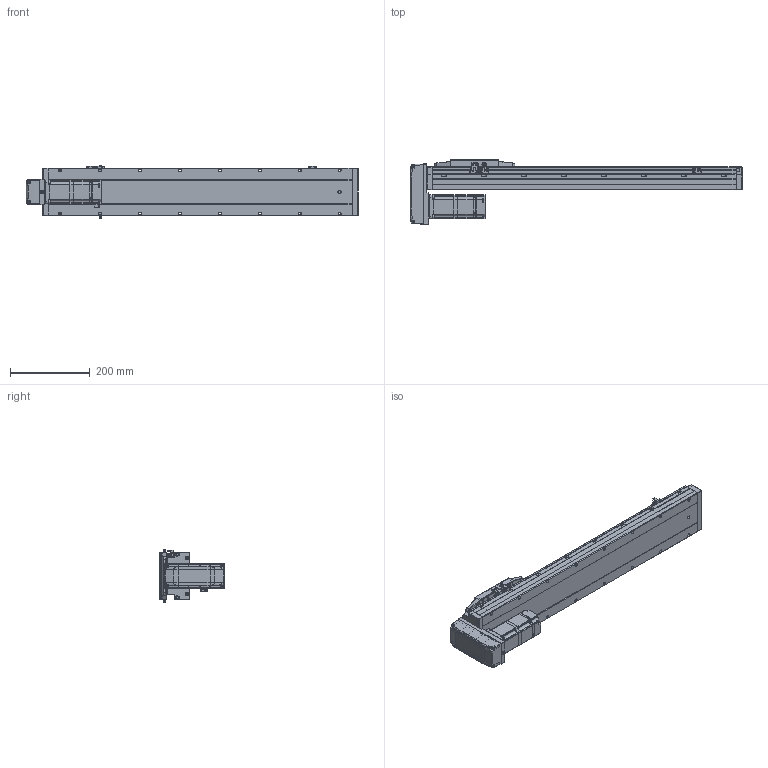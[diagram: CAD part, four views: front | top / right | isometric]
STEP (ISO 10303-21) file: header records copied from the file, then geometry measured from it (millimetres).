
FILE_DESCRIPTION (( 'STEP AP214' ), '1' );
FILE_NAME ('CTH12-L10-S550-BM-C40（简）.STEP', '2023-02-04T06:49:11', ( '' ), ( '' ), 'SwSTEP 2.0', 'SolidWorks 2018', '' );
FILE_SCHEMA (( 'AUTOMOTIVE_DESIGN' ));
Length unit declared in the file: millimetre
Products named in the file (25): CTH12-BM-02; CTH12覜茼え; CTH12賑怢ㄗ潠ㄘ; PM-Y45; CTH12-L10-S550-BM-C40（简）; 内六角圆柱头螺钉M5装饰螺钉; 内六角圆柱头螺钉M3; CTH12_body_3; 内六角圆柱头螺钉M3-2; 蚐郲; CTH400W假蚾啣; CTH12; 湮賑怢  裔赽-1(CTH12)賑怢; 内六角圆柱头螺钉M3-1; CTH12-BL_body_4; CTH12賑怢郪磁; BM-C40; CTH12底座-L761简（550行程）; 嫖萇羲壽郪磁2; CTH400W垫板（3个厚）; 嫖萇羲壽郪磁1; CTH8耜蚾蟀諉啣ㄗ潠ㄘ; AC60_Valor predeterminado; hex nuts, style 1-grades ab gb_GB_FASTENER_NUT_SNAB1 M3-N; CTH嫖萇羲壽假蚾啣
Assembly tree (45 placements, depth 4):
  CTH12-L10-S550-BM-C40（简）
    CTH12底座-L761简（550行程）
    蚐郲  x2
    CTH12_body_3
    CTH12-BL_body_4
    CTH12賑怢郪磁
      CTH12
        湮賑怢  裔赽-1(CTH12)賑怢
        CTH12賑怢ㄗ潠ㄘ
    CTH12覜茼え
    嫖萇羲壽郪磁1  x2
      CTH嫖萇羲壽假蚾啣
      PM-Y45
      内六角圆柱头螺钉M3-2
      内六角圆柱头螺钉M3-1
      hex nuts, style 1-grades ab gb_GB_FASTENER_NUT_SNAB1 M3-N
    嫖萇羲壽郪磁2
      CTH嫖萇羲壽假蚾啣
      PM-Y45
      内六角圆柱头螺钉M3-1  x2
      内六角圆柱头螺钉M3-2  x2
      hex nuts, style 1-grades ab gb_GB_FASTENER_NUT_SNAB1 M3-N  x2
    BM-C40
      CTH12-BM-02
      CTH8耜蚾蟀諉啣ㄗ潠ㄘ
    CTH400W垫板（3个厚）
    AC60_Valor predeterminado
    内六角圆柱头螺钉M3  x6
    内六角圆柱头螺钉M5装饰螺钉  x4
    CTH400W假蚾啣
Bounding box: 831.5 x 162.5 x 131.52 mm (x, y, z)
Volume: 5758737.7 mm3; surface area: 589343.9 mm2
Topology: 47 solids, 48 shells, 2757 faces, 6983 edges, 4445 vertices
Faces by surface type: plane 1486, cylinder 820, cone 291, bspline 108, torus 52
Entity records: 75513 total; most frequent: CARTESIAN_POINT 17717, ORIENTED_EDGE 11146, DIRECTION 11074, EDGE_CURVE 5573, AXIS2_PLACEMENT_3D 3763, VERTEX_POINT 3549, VECTOR 3548, LINE 3548
